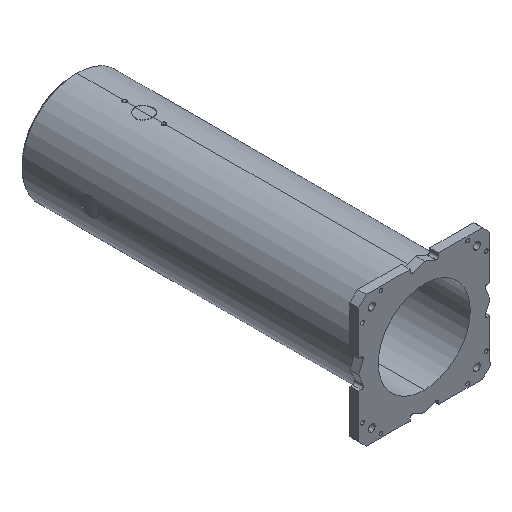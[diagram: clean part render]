
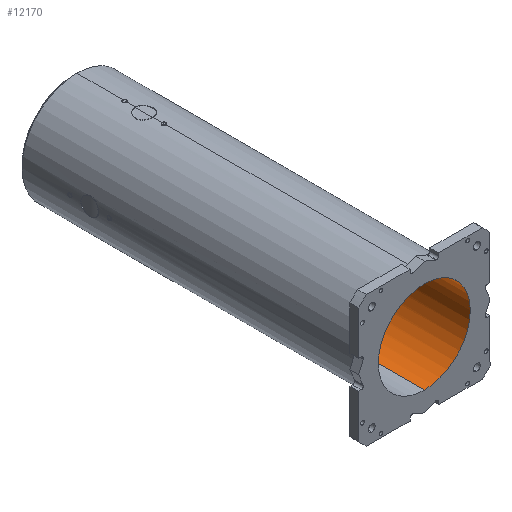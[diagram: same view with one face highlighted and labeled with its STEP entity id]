
A CAD part, isometric view. The second image highlights one B-rep face of the part: STEP entity #12170.
In plain terms, the highlighted cylindrical face has radius 105 mm (diameter 210 mm), a partial arc.
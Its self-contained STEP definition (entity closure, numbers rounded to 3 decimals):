
#102 = CARTESIAN_POINT ( 'NONE',  ( 71.94, 782., 76.483 ) ) ;
#126 = DIRECTION ( 'NONE',  ( 0., 1., 0. ) ) ;
#551 = AXIS2_PLACEMENT_3D ( 'NONE', #10965, #126, #6340 ) ;
#1321 = CARTESIAN_POINT ( 'NONE',  ( 0., 782., 0. ) ) ;
#1322 = CIRCLE ( 'NONE', #7691, 105. ) ;
#1420 = ORIENTED_EDGE ( 'NONE', *, *, #12392, .T. ) ;
#1596 = EDGE_CURVE ( 'NONE', #2312, #15670, #2521, .T. ) ;
#1613 = CARTESIAN_POINT ( 'NONE',  ( 0., 782., 0. ) ) ;
#1866 = AXIS2_PLACEMENT_3D ( 'NONE', #8577, #12089, #15762 ) ;
#2007 = ORIENTED_EDGE ( 'NONE', *, *, #5320, .T. ) ;
#2023 = AXIS2_PLACEMENT_3D ( 'NONE', #5374, #8849, #14836 ) ;
#2065 = CIRCLE ( 'NONE', #3852, 105. ) ;
#2190 = CARTESIAN_POINT ( 'NONE',  ( 65.645, 782., 81.95 ) ) ;
#2312 = VERTEX_POINT ( 'NONE', #2190 ) ;
#2347 = CIRCLE ( 'NONE', #10001, 105. ) ;
#2521 = CIRCLE ( 'NONE', #2023, 105. ) ;
#2535 = VERTEX_POINT ( 'NONE', #13586 ) ;
#2626 = VERTEX_POINT ( 'NONE', #15749 ) ;
#2781 = ORIENTED_EDGE ( 'NONE', *, *, #3231, .F. ) ;
#2832 = CIRCLE ( 'NONE', #551, 105. ) ;
#3093 = VECTOR ( 'NONE', #14310, 1000. ) ;
#3183 = DIRECTION ( 'NONE',  ( 0., 1., 0. ) ) ;
#3231 = EDGE_CURVE ( 'NONE', #13343, #11292, #2065, .T. ) ;
#3332 = DIRECTION ( 'NONE',  ( 0., 0., 1. ) ) ;
#3471 = EDGE_CURVE ( 'NONE', #11292, #10187, #12003, .T. ) ;
#3654 = CIRCLE ( 'NONE', #4196, 105. ) ;
#3768 = CARTESIAN_POINT ( 'NONE',  ( 0., 782., 0. ) ) ;
#3852 = AXIS2_PLACEMENT_3D ( 'NONE', #10420, #3183, #10199 ) ;
#4024 = EDGE_CURVE ( 'NONE', #15670, #5184, #12136, .T. ) ;
#4050 = DIRECTION ( 'NONE',  ( 0., 0., 1. ) ) ;
#4196 = AXIS2_PLACEMENT_3D ( 'NONE', #1613, #13802, #7752 ) ;
#4280 = CARTESIAN_POINT ( 'NONE',  ( 76.483, 782., 71.94 ) ) ;
#4748 = CARTESIAN_POINT ( 'NONE',  ( 0., 782., -105. ) ) ;
#4784 = AXIS2_PLACEMENT_3D ( 'NONE', #8250, #13116, #10727 ) ;
#4815 = EDGE_CURVE ( 'NONE', #13343, #11960, #7291, .T. ) ;
#4880 = CIRCLE ( 'NONE', #9435, 105. ) ;
#4980 = CARTESIAN_POINT ( 'NONE',  ( 0., 0., 105. ) ) ;
#5008 = DIRECTION ( 'NONE',  ( 0., 1., 0. ) ) ;
#5184 = VERTEX_POINT ( 'NONE', #102 ) ;
#5320 = EDGE_CURVE ( 'NONE', #11960, #2626, #3654, .T. ) ;
#5374 = CARTESIAN_POINT ( 'NONE',  ( 0., 782., 0. ) ) ;
#5638 = DIRECTION ( 'NONE',  ( 0., 0., 1. ) ) ;
#5870 = VERTEX_POINT ( 'NONE', #13288 ) ;
#6004 = EDGE_LOOP ( 'NONE', ( #11854, #2781, #14778, #2007, #7158, #10282, #8109, #13907, #1420, #13142, #14471, #8278 ) ) ;
#6340 = DIRECTION ( 'NONE',  ( 0., 0., 1. ) ) ;
#6408 = CIRCLE ( 'NONE', #15300, 105. ) ;
#6428 = DIRECTION ( 'NONE',  ( 0., 1., 0. ) ) ;
#7158 = ORIENTED_EDGE ( 'NONE', *, *, #14032, .T. ) ;
#7227 = CYLINDRICAL_SURFACE ( 'NONE', #9694, 105. ) ;
#7291 = LINE ( 'NONE', #11192, #12793 ) ;
#7691 = AXIS2_PLACEMENT_3D ( 'NONE', #3768, #12199, #8612 ) ;
#7752 = DIRECTION ( 'NONE',  ( 0., 0., 1. ) ) ;
#8005 = CARTESIAN_POINT ( 'NONE',  ( 0., 782., 0. ) ) ;
#8109 = ORIENTED_EDGE ( 'NONE', *, *, #1596, .T. ) ;
#8250 = CARTESIAN_POINT ( 'NONE',  ( 0., 782., 0. ) ) ;
#8278 = ORIENTED_EDGE ( 'NONE', *, *, #12380, .T. ) ;
#8577 = CARTESIAN_POINT ( 'NONE',  ( 0., 782., 0. ) ) ;
#8612 = DIRECTION ( 'NONE',  ( 0., 0., 1. ) ) ;
#8849 = DIRECTION ( 'NONE',  ( 0., 1., 0. ) ) ;
#8874 = CARTESIAN_POINT ( 'NONE',  ( 69.052, 782., 79.1 ) ) ;
#9370 = CARTESIAN_POINT ( 'NONE',  ( 0., 0., 0. ) ) ;
#9435 = AXIS2_PLACEMENT_3D ( 'NONE', #11125, #5008, #10092 ) ;
#9448 = DIRECTION ( 'NONE',  ( 0., 1., 0. ) ) ;
#9694 = AXIS2_PLACEMENT_3D ( 'NONE', #9370, #9448, #3332 ) ;
#10001 = AXIS2_PLACEMENT_3D ( 'NONE', #8005, #12795, #5638 ) ;
#10010 = DIRECTION ( 'NONE',  ( 0., 1., 0. ) ) ;
#10092 = DIRECTION ( 'NONE',  ( 0., 0., 1. ) ) ;
#10187 = VERTEX_POINT ( 'NONE', #4748 ) ;
#10199 = DIRECTION ( 'NONE',  ( 0., 0., 1. ) ) ;
#10282 = ORIENTED_EDGE ( 'NONE', *, *, #13245, .T. ) ;
#10420 = CARTESIAN_POINT ( 'NONE',  ( 0., 0., 0. ) ) ;
#10658 = VERTEX_POINT ( 'NONE', #4280 ) ;
#10727 = DIRECTION ( 'NONE',  ( 0., 0., 1. ) ) ;
#10907 = CARTESIAN_POINT ( 'NONE',  ( 0., 782., 105. ) ) ;
#10965 = CARTESIAN_POINT ( 'NONE',  ( 0., 782., 0. ) ) ;
#11008 = VERTEX_POINT ( 'NONE', #15350 ) ;
#11125 = CARTESIAN_POINT ( 'NONE',  ( 0., 782., 0. ) ) ;
#11192 = CARTESIAN_POINT ( 'NONE',  ( 0., 0., 105. ) ) ;
#11292 = VERTEX_POINT ( 'NONE', #11638 ) ;
#11638 = CARTESIAN_POINT ( 'NONE',  ( 0., 0., -105. ) ) ;
#11854 = ORIENTED_EDGE ( 'NONE', *, *, #3471, .F. ) ;
#11960 = VERTEX_POINT ( 'NONE', #10907 ) ;
#12003 = LINE ( 'NONE', #14389, #3093 ) ;
#12089 = DIRECTION ( 'NONE',  ( 0., 1., 0. ) ) ;
#12136 = CIRCLE ( 'NONE', #4784, 105. ) ;
#12170 = ADVANCED_FACE ( 'NONE', ( #13273 ), #7227, .F. ) ;
#12199 = DIRECTION ( 'NONE',  ( 0., 1., 0. ) ) ;
#12296 = EDGE_CURVE ( 'NONE', #10658, #11008, #6408, .T. ) ;
#12380 = EDGE_CURVE ( 'NONE', #5870, #10187, #2832, .T. ) ;
#12392 = EDGE_CURVE ( 'NONE', #5184, #10658, #4880, .T. ) ;
#12793 = VECTOR ( 'NONE', #10010, 1000. ) ;
#12795 = DIRECTION ( 'NONE',  ( 0., 1., 0. ) ) ;
#13116 = DIRECTION ( 'NONE',  ( 0., 1., 0. ) ) ;
#13142 = ORIENTED_EDGE ( 'NONE', *, *, #12296, .T. ) ;
#13245 = EDGE_CURVE ( 'NONE', #2535, #2312, #1322, .T. ) ;
#13273 = FACE_OUTER_BOUND ( 'NONE', #6004, .T. ) ;
#13288 = CARTESIAN_POINT ( 'NONE',  ( 71.94, 782., -76.483 ) ) ;
#13343 = VERTEX_POINT ( 'NONE', #4980 ) ;
#13586 = CARTESIAN_POINT ( 'NONE',  ( 63.2, 782., 83.85 ) ) ;
#13802 = DIRECTION ( 'NONE',  ( 0., 1., 0. ) ) ;
#13907 = ORIENTED_EDGE ( 'NONE', *, *, #4024, .T. ) ;
#14032 = EDGE_CURVE ( 'NONE', #2626, #2535, #2347, .T. ) ;
#14310 = DIRECTION ( 'NONE',  ( 0., 1., 0. ) ) ;
#14389 = CARTESIAN_POINT ( 'NONE',  ( 0., 0., -105. ) ) ;
#14471 = ORIENTED_EDGE ( 'NONE', *, *, #15217, .T. ) ;
#14593 = CIRCLE ( 'NONE', #1866, 105. ) ;
#14778 = ORIENTED_EDGE ( 'NONE', *, *, #4815, .T. ) ;
#14836 = DIRECTION ( 'NONE',  ( 0., 0., 1. ) ) ;
#15217 = EDGE_CURVE ( 'NONE', #11008, #5870, #14593, .T. ) ;
#15300 = AXIS2_PLACEMENT_3D ( 'NONE', #1321, #6428, #4050 ) ;
#15350 = CARTESIAN_POINT ( 'NONE',  ( 76.483, 782., -71.94 ) ) ;
#15670 = VERTEX_POINT ( 'NONE', #8874 ) ;
#15749 = CARTESIAN_POINT ( 'NONE',  ( 57.845, 782., 87.63 ) ) ;
#15762 = DIRECTION ( 'NONE',  ( 0., 0., 1. ) ) ;
